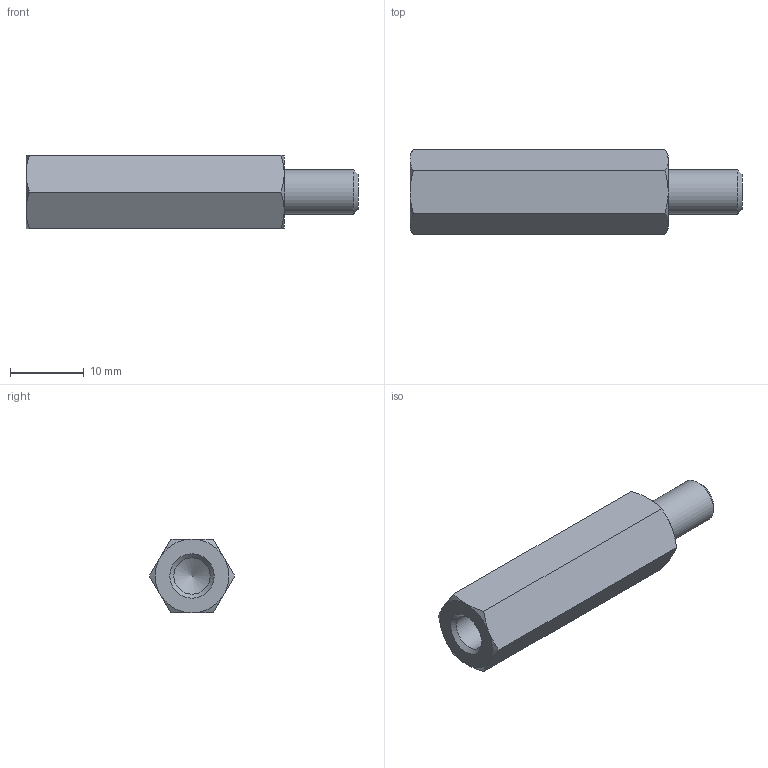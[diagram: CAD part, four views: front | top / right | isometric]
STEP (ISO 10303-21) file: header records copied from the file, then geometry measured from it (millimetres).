
FILE_DESCRIPTION( ( 'STEP AP203' ), '1' );
FILE_NAME( 'C:/Temp/Ganter_Step_05_03_2020/data/3_2/gn6220/gn6220_st/Spacer GN 6220-ST-M6-35-B.stp', '2020-03-13T05:42:48', ( 'License CC BY-ND 4.0' ), ( 'CADENAS' ), ' ', 'PARTsolutions', ' ' );
FILE_SCHEMA( ( 'CONFIG_CONTROL_DESIGN' ) );
Length unit declared in the file: millimetre
Products named in the file (1): _Spacer GN 6220-ST-M6-35-B
Bounding box: 45 x 11.55 x 10 mm (x, y, z)
Volume: 2971.9 mm3; surface area: 1821.5 mm2
Topology: 1 solids, 1 shells, 26 faces, 55 edges, 32 vertices
Faces by surface type: cone 15, plane 9, cylinder 2
Full cylindrical faces by diameter (mm): 4.917 x1, 6 x1
Entity records: 762 total; most frequent: CARTESIAN_POINT 226, DIRECTION 96, ORIENTED_EDGE 96, EDGE_CURVE 48, AXIS2_PLACEMENT_3D 45, EDGE_LOOP 32, VERTEX_POINT 31, FACE_OUTER_BOUND 28
